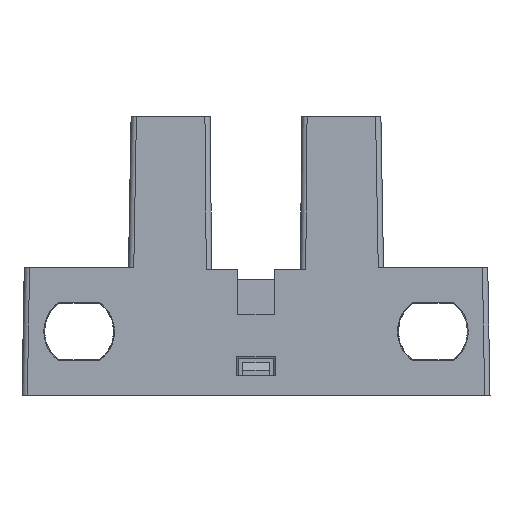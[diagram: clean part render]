
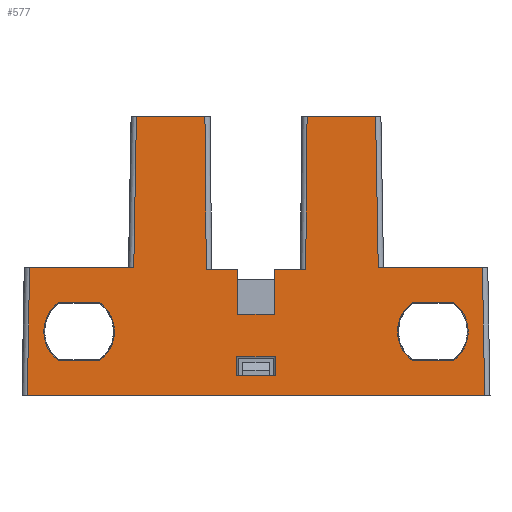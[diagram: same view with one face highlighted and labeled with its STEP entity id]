
A CAD part, front view. The second image highlights one B-rep face of the part: STEP entity #577.
In plain terms, the highlighted planar face has unit normal (0, -1, 0.018).
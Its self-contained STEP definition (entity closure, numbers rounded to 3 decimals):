
#577=ADVANCED_FACE('',(#1297,#1298,#1299,#1300),#939,.T.);
#939=PLANE('',#7180);
#1297=FACE_BOUND('',#1416,.T.);
#1298=FACE_BOUND('',#1417,.T.);
#1299=FACE_BOUND('',#1418,.T.);
#1300=FACE_BOUND('',#1419,.T.);
#1416=EDGE_LOOP('',(#2039,#2040,#2041,#2042,#2043,#2044,#2045,#2046,#2047,
#2048,#2049,#2050,#2051,#2052,#2053,#2054));
#1417=EDGE_LOOP('',(#2055,#2056,#2057,#2058));
#1418=EDGE_LOOP('',(#2059,#2060,#2061,#2062));
#1419=EDGE_LOOP('',(#2063,#2064,#2065,#2066));
#1837=ELLIPSE('',#7146,2.038,2.037);
#1846=ELLIPSE('',#7160,2.038,2.037);
#1851=ELLIPSE('',#7178,2.038,2.037);
#1852=ELLIPSE('',#7179,2.038,2.037);
#2039=ORIENTED_EDGE('',*,*,#4618,.T.);
#2040=ORIENTED_EDGE('',*,*,#4619,.F.);
#2041=ORIENTED_EDGE('',*,*,#4620,.T.);
#2042=ORIENTED_EDGE('',*,*,#4621,.T.);
#2043=ORIENTED_EDGE('',*,*,#4622,.T.);
#2044=ORIENTED_EDGE('',*,*,#4623,.F.);
#2045=ORIENTED_EDGE('',*,*,#4624,.T.);
#2046=ORIENTED_EDGE('',*,*,#4625,.T.);
#2047=ORIENTED_EDGE('',*,*,#4626,.F.);
#2048=ORIENTED_EDGE('',*,*,#4627,.F.);
#2049=ORIENTED_EDGE('',*,*,#4628,.T.);
#2050=ORIENTED_EDGE('',*,*,#4629,.F.);
#2051=ORIENTED_EDGE('',*,*,#4513,.F.);
#2052=ORIENTED_EDGE('',*,*,#4630,.T.);
#2053=ORIENTED_EDGE('',*,*,#4617,.T.);
#2054=ORIENTED_EDGE('',*,*,#4631,.T.);
#2055=ORIENTED_EDGE('',*,*,#4632,.F.);
#2056=ORIENTED_EDGE('',*,*,#4633,.T.);
#2057=ORIENTED_EDGE('',*,*,#4634,.F.);
#2058=ORIENTED_EDGE('',*,*,#4635,.F.);
#2059=ORIENTED_EDGE('',*,*,#4562,.T.);
#2060=ORIENTED_EDGE('',*,*,#4599,.F.);
#2061=ORIENTED_EDGE('',*,*,#4596,.F.);
#2062=ORIENTED_EDGE('',*,*,#4585,.F.);
#2063=ORIENTED_EDGE('',*,*,#4636,.T.);
#2064=ORIENTED_EDGE('',*,*,#4637,.T.);
#2065=ORIENTED_EDGE('',*,*,#4638,.T.);
#2066=ORIENTED_EDGE('',*,*,#4639,.T.);
#3858=VERTEX_POINT('',#9390);
#3859=VERTEX_POINT('',#9391);
#3905=VERTEX_POINT('',#9521);
#3906=VERTEX_POINT('',#9523);
#3923=VERTEX_POINT('',#9597);
#3930=VERTEX_POINT('',#9639);
#3938=VERTEX_POINT('',#9712);
#3943=VERTEX_POINT('',#9722);
#3944=VERTEX_POINT('',#9726);
#3945=VERTEX_POINT('',#9727);
#3946=VERTEX_POINT('',#9729);
#3947=VERTEX_POINT('',#9731);
#3948=VERTEX_POINT('',#9733);
#3949=VERTEX_POINT('',#9735);
#3950=VERTEX_POINT('',#9737);
#3951=VERTEX_POINT('',#9739);
#3952=VERTEX_POINT('',#9741);
#3953=VERTEX_POINT('',#9743);
#3954=VERTEX_POINT('',#9745);
#3955=VERTEX_POINT('',#9747);
#3956=VERTEX_POINT('',#9752);
#3957=VERTEX_POINT('',#9753);
#3958=VERTEX_POINT('',#9755);
#3959=VERTEX_POINT('',#9757);
#3960=VERTEX_POINT('',#9760);
#3961=VERTEX_POINT('',#9761);
#3962=VERTEX_POINT('',#9763);
#3963=VERTEX_POINT('',#9765);
#4513=EDGE_CURVE('',#3858,#3859,#5497,.T.);
#4562=EDGE_CURVE('',#3906,#3905,#1837,.T.);
#4585=EDGE_CURVE('',#3906,#3923,#5542,.T.);
#4596=EDGE_CURVE('',#3923,#3930,#1846,.T.);
#4599=EDGE_CURVE('',#3930,#3905,#5545,.T.);
#4617=EDGE_CURVE('',#3938,#3943,#5550,.T.);
#4618=EDGE_CURVE('',#3944,#3945,#5551,.T.);
#4619=EDGE_CURVE('',#3946,#3945,#5552,.T.);
#4620=EDGE_CURVE('',#3946,#3947,#5553,.T.);
#4621=EDGE_CURVE('',#3947,#3948,#5554,.T.);
#4622=EDGE_CURVE('',#3948,#3949,#5555,.T.);
#4623=EDGE_CURVE('',#3950,#3949,#5556,.T.);
#4624=EDGE_CURVE('',#3950,#3951,#5557,.T.);
#4625=EDGE_CURVE('',#3951,#3952,#5558,.T.);
#4626=EDGE_CURVE('',#3953,#3952,#5559,.T.);
#4627=EDGE_CURVE('',#3954,#3953,#5560,.T.);
#4628=EDGE_CURVE('',#3954,#3955,#5561,.T.);
#4629=EDGE_CURVE('',#3859,#3955,#5562,.T.);
#4630=EDGE_CURVE('',#3858,#3938,#5563,.T.);
#4631=EDGE_CURVE('',#3943,#3944,#5564,.T.);
#4632=EDGE_CURVE('',#3956,#3957,#5565,.T.);
#4633=EDGE_CURVE('',#3956,#3958,#1851,.T.);
#4634=EDGE_CURVE('',#3959,#3958,#5566,.T.);
#4635=EDGE_CURVE('',#3957,#3959,#1852,.T.);
#4636=EDGE_CURVE('',#3960,#3961,#5567,.T.);
#4637=EDGE_CURVE('',#3961,#3962,#5568,.T.);
#4638=EDGE_CURVE('',#3962,#3963,#5569,.T.);
#4639=EDGE_CURVE('',#3963,#3960,#5570,.T.);
#5497=LINE('',#9389,#6314);
#5542=LINE('',#9601,#6359);
#5545=LINE('',#9670,#6362);
#5550=LINE('',#9723,#6367);
#5551=LINE('',#9725,#6368);
#5552=LINE('',#9728,#6369);
#5553=LINE('',#9730,#6370);
#5554=LINE('',#9732,#6371);
#5555=LINE('',#9734,#6372);
#5556=LINE('',#9736,#6373);
#5557=LINE('',#9738,#6374);
#5558=LINE('',#9740,#6375);
#5559=LINE('',#9742,#6376);
#5560=LINE('',#9744,#6377);
#5561=LINE('',#9746,#6378);
#5562=LINE('',#9748,#6379);
#5563=LINE('',#9749,#6380);
#5564=LINE('',#9750,#6381);
#5565=LINE('',#9751,#6382);
#5566=LINE('',#9756,#6383);
#5567=LINE('',#9759,#6384);
#5568=LINE('',#9762,#6385);
#5569=LINE('',#9764,#6386);
#5570=LINE('',#9766,#6387);
#6314=VECTOR('',#7613,1.);
#6359=VECTOR('',#7702,1.);
#6362=VECTOR('',#7723,1.);
#6367=VECTOR('',#7756,1.);
#6368=VECTOR('',#7759,1.);
#6369=VECTOR('',#7760,1.);
#6370=VECTOR('',#7761,1.);
#6371=VECTOR('',#7762,1.);
#6372=VECTOR('',#7763,1.);
#6373=VECTOR('',#7764,1.);
#6374=VECTOR('',#7765,1.);
#6375=VECTOR('',#7766,1.);
#6376=VECTOR('',#7767,1.);
#6377=VECTOR('',#7768,1.);
#6378=VECTOR('',#7769,1.);
#6379=VECTOR('',#7770,1.);
#6380=VECTOR('',#7771,1.);
#6381=VECTOR('',#7772,1.);
#6382=VECTOR('',#7773,1.);
#6383=VECTOR('',#7776,1.);
#6384=VECTOR('',#7779,1.);
#6385=VECTOR('',#7780,1.);
#6386=VECTOR('',#7781,1.);
#6387=VECTOR('',#7782,1.);
#7146=AXIS2_PLACEMENT_3D('',#9522,#7673,#7674);
#7160=AXIS2_PLACEMENT_3D('',#9665,#7715,#7716);
#7178=AXIS2_PLACEMENT_3D('',#9754,#7774,#7775);
#7179=AXIS2_PLACEMENT_3D('',#9758,#7777,#7778);
#7180=AXIS2_PLACEMENT_3D('',#9767,#7783,#7784);
#7613=DIRECTION('',(-1.,0.,0.));
#7673=DIRECTION('',(0.,1.,-0.017));
#7674=DIRECTION('',(0.,-0.017,-1.));
#7702=DIRECTION('',(-1.,0.,0.));
#7715=DIRECTION('',(0.,-1.,0.017));
#7716=DIRECTION('',(0.,-0.017,-1.));
#7723=DIRECTION('',(1.,0.,0.));
#7756=DIRECTION('',(-1.,0.,0.));
#7759=DIRECTION('',(-1.,0.,0.));
#7760=DIRECTION('',(0.009,0.017,1.));
#7761=DIRECTION('',(-1.,0.,0.));
#7762=DIRECTION('',(-0.005,-0.017,-1.));
#7763=DIRECTION('',(-1.,0.,0.));
#7764=DIRECTION('',(0.005,-0.017,-1.));
#7765=DIRECTION('',(-1.,0.,0.));
#7766=DIRECTION('',(-0.009,0.017,1.));
#7767=DIRECTION('',(1.,0.,0.));
#7768=DIRECTION('',(0.017,0.017,1.));
#7769=DIRECTION('',(-1.,0.,0.));
#7770=DIRECTION('',(0.017,0.017,1.));
#7771=DIRECTION('',(-0.017,0.017,1.));
#7772=DIRECTION('',(-0.017,0.017,1.));
#7773=DIRECTION('',(1.,0.,0.));
#7774=DIRECTION('',(0.,1.,-0.017));
#7775=DIRECTION('',(0.,-0.017,-1.));
#7776=DIRECTION('',(-1.,0.,0.));
#7777=DIRECTION('',(0.,-1.,0.017));
#7778=DIRECTION('',(0.,-0.017,-1.));
#7779=DIRECTION('',(-1.,0.,0.));
#7780=DIRECTION('',(0.002,0.017,1.));
#7781=DIRECTION('',(1.,0.,0.));
#7782=DIRECTION('',(0.002,-0.017,-1.));
#7783=DIRECTION('',(0.,-1.,0.017));
#7784=DIRECTION('',(-1.,0.,0.));
#9389=CARTESIAN_POINT('',(12.863,-3.692,0.));
#9390=CARTESIAN_POINT('',(12.863,-3.692,0.));
#9391=CARTESIAN_POINT('',(-12.863,-3.692,0.));
#9521=CARTESIAN_POINT('',(11.112,-3.658,1.963));
#9522=CARTESIAN_POINT('',(9.9,-3.629,3.6));
#9523=CARTESIAN_POINT('',(11.112,-3.6,5.237));
#9597=CARTESIAN_POINT('',(8.788,-3.6,5.237));
#9601=CARTESIAN_POINT('',(11.112,-3.6,5.237));
#9639=CARTESIAN_POINT('',(8.788,-3.658,1.963));
#9665=CARTESIAN_POINT('',(10.,-3.629,3.6));
#9670=CARTESIAN_POINT('',(8.788,-3.658,1.963));
#9712=CARTESIAN_POINT('',(12.737,-3.566,7.2));
#9722=CARTESIAN_POINT('',(6.876,-3.566,7.2));
#9723=CARTESIAN_POINT('',(12.737,-3.566,7.2));
#9725=CARTESIAN_POINT('',(6.727,-3.418,15.7));
#9726=CARTESIAN_POINT('',(6.727,-3.418,15.7));
#9727=CARTESIAN_POINT('',(2.873,-3.418,15.7));
#9728=CARTESIAN_POINT('',(2.798,-3.568,7.1));
#9729=CARTESIAN_POINT('',(2.798,-3.568,7.1));
#9730=CARTESIAN_POINT('',(2.798,-3.568,7.1));
#9731=CARTESIAN_POINT('',(1.033,-3.568,7.1));
#9732=CARTESIAN_POINT('',(1.033,-3.568,7.1));
#9733=CARTESIAN_POINT('',(1.02,-3.612,4.56));
#9734=CARTESIAN_POINT('',(1.02,-3.612,4.56));
#9735=CARTESIAN_POINT('',(-1.02,-3.612,4.56));
#9736=CARTESIAN_POINT('',(-1.033,-3.568,7.1));
#9737=CARTESIAN_POINT('',(-1.033,-3.568,7.1));
#9738=CARTESIAN_POINT('',(-1.033,-3.568,7.1));
#9739=CARTESIAN_POINT('',(-2.798,-3.568,7.1));
#9740=CARTESIAN_POINT('',(-2.798,-3.568,7.1));
#9741=CARTESIAN_POINT('',(-2.873,-3.418,15.7));
#9742=CARTESIAN_POINT('',(-6.727,-3.418,15.7));
#9743=CARTESIAN_POINT('',(-6.727,-3.418,15.7));
#9744=CARTESIAN_POINT('',(-6.876,-3.566,7.2));
#9745=CARTESIAN_POINT('',(-6.876,-3.566,7.2));
#9746=CARTESIAN_POINT('',(-6.876,-3.566,7.2));
#9747=CARTESIAN_POINT('',(-12.737,-3.566,7.2));
#9748=CARTESIAN_POINT('',(-12.863,-3.692,0.));
#9749=CARTESIAN_POINT('',(12.863,-3.692,0.));
#9750=CARTESIAN_POINT('',(6.876,-3.566,7.2));
#9751=CARTESIAN_POINT('',(-11.112,-3.658,1.963));
#9752=CARTESIAN_POINT('',(-11.112,-3.658,1.963));
#9753=CARTESIAN_POINT('',(-8.788,-3.658,1.963));
#9754=CARTESIAN_POINT('',(-9.9,-3.629,3.6));
#9755=CARTESIAN_POINT('',(-11.112,-3.6,5.237));
#9756=CARTESIAN_POINT('',(-8.788,-3.6,5.237));
#9757=CARTESIAN_POINT('',(-8.788,-3.6,5.237));
#9758=CARTESIAN_POINT('',(-10.,-3.629,3.6));
#9759=CARTESIAN_POINT('',(1.079,-3.673,1.1));
#9760=CARTESIAN_POINT('',(1.079,-3.673,1.1));
#9761=CARTESIAN_POINT('',(-1.079,-3.673,1.1));
#9762=CARTESIAN_POINT('',(-1.079,-3.673,1.1));
#9763=CARTESIAN_POINT('',(-1.077,-3.654,2.177));
#9764=CARTESIAN_POINT('',(-1.077,-3.654,2.177));
#9765=CARTESIAN_POINT('',(1.077,-3.654,2.177));
#9766=CARTESIAN_POINT('',(1.077,-3.654,2.177));
#9767=CARTESIAN_POINT('',(13.22,-3.418,15.7));
